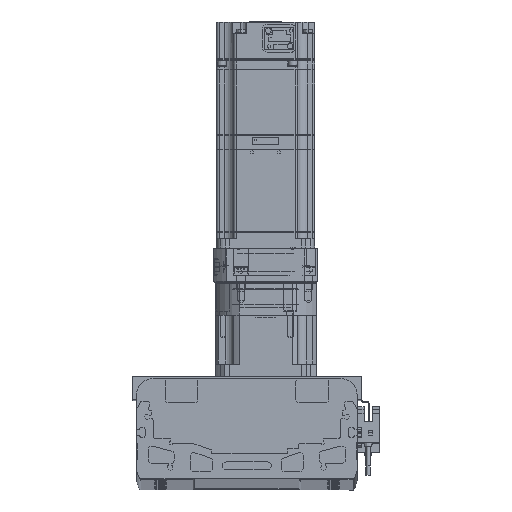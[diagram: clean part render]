
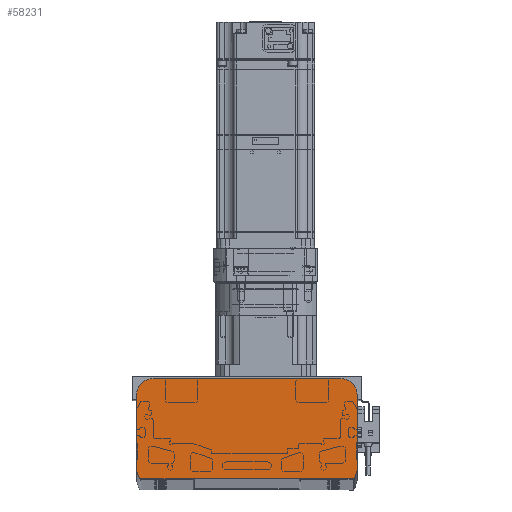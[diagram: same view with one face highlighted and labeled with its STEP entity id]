
A CAD part, top view. The second image highlights one B-rep face of the part: STEP entity #58231.
In plain terms, the highlighted planar face has unit normal (0, 0, 1).
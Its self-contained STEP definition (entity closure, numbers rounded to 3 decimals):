
#1344 = DIRECTION ( 'NONE',  ( 1., 0., 0. ) ) ;
#3871 = EDGE_CURVE ( 'NONE', #124569, #68463, #76215, .T. ) ;
#4814 = DIRECTION ( 'NONE',  ( 0.242, 0.97, 0. ) ) ;
#5580 = DIRECTION ( 'NONE',  ( -1., 0., 0. ) ) ;
#6233 = VECTOR ( 'NONE', #16383, 1000. ) ;
#8488 = VERTEX_POINT ( 'NONE', #110051 ) ;
#9675 = CARTESIAN_POINT ( 'NONE',  ( 403.368, 137.583, 3630. ) ) ;
#12363 = DIRECTION ( 'NONE',  ( 0., 0., 1. ) ) ;
#12436 = EDGE_CURVE ( 'NONE', #68463, #25174, #89337, .T. ) ;
#13784 = DIRECTION ( 'NONE',  ( 0.242, -0.97, 0. ) ) ;
#14630 = ORIENTED_EDGE ( 'NONE', *, *, #123398, .T. ) ;
#15449 = CARTESIAN_POINT ( 'NONE',  ( 405.33, 143.083, 3630. ) ) ;
#16383 = DIRECTION ( 'NONE',  ( 1., 0., 0. ) ) ;
#22429 = ORIENTED_EDGE ( 'NONE', *, *, #128902, .T. ) ;
#22671 = CARTESIAN_POINT ( 'NONE',  ( 404.83, 143.083, 3630. ) ) ;
#22714 = CARTESIAN_POINT ( 'NONE',  ( 270.83, 143.083, 3630. ) ) ;
#24157 = LINE ( 'NONE', #108682, #41766 ) ;
#25174 = VERTEX_POINT ( 'NONE', #84068 ) ;
#25583 = CARTESIAN_POINT ( 'NONE',  ( 405.33, 143.083, 3630. ) ) ;
#28749 = CARTESIAN_POINT ( 'NONE',  ( 280.33, 189.083, 3630. ) ) ;
#30300 = VERTEX_POINT ( 'NONE', #9675 ) ;
#32716 = VERTEX_POINT ( 'NONE', #73740 ) ;
#33344 = CARTESIAN_POINT ( 'NONE',  ( 271.152, 139.723, 3630. ) ) ;
#35193 = CIRCLE ( 'NONE', #103859, 10. ) ;
#35250 = CARTESIAN_POINT ( 'NONE',  ( 404.507, 139.723, 3630. ) ) ;
#35321 = DIRECTION ( 'NONE',  ( 0., -1., 0. ) ) ;
#35460 = FACE_OUTER_BOUND ( 'NONE', #134317, .T. ) ;
#36397 = ORIENTED_EDGE ( 'NONE', *, *, #113202, .T. ) ;
#37554 = VERTEX_POINT ( 'NONE', #55386 ) ;
#37876 = CIRCLE ( 'NONE', #73278, 0.5 ) ;
#38273 = VERTEX_POINT ( 'NONE', #33344 ) ;
#39143 = DIRECTION ( 'NONE',  ( 1., 0., 0. ) ) ;
#40475 = VERTEX_POINT ( 'NONE', #110709 ) ;
#41196 = CARTESIAN_POINT ( 'NONE',  ( 272.291, 137.583, 3630. ) ) ;
#41766 = VECTOR ( 'NONE', #13784, 1000. ) ;
#43107 = EDGE_CURVE ( 'NONE', #37554, #121131, #45636, .T. ) ;
#44003 = DIRECTION ( 'NONE',  ( 0., 0., 1. ) ) ;
#44452 = CARTESIAN_POINT ( 'NONE',  ( 276.004, 140.933, 3630. ) ) ;
#45636 = LINE ( 'NONE', #35250, #124859 ) ;
#46336 = LINE ( 'NONE', #25583, #106934 ) ;
#47059 = CARTESIAN_POINT ( 'NONE',  ( 395.33, 199.083, 3630. ) ) ;
#50500 = ORIENTED_EDGE ( 'NONE', *, *, #134501, .T. ) ;
#55318 = VERTEX_POINT ( 'NONE', #15449 ) ;
#55386 = CARTESIAN_POINT ( 'NONE',  ( 404.507, 139.723, 3630. ) ) ;
#56202 = PLANE ( 'NONE',  #127061 ) ;
#56896 = AXIS2_PLACEMENT_3D ( 'NONE', #22714, #12363, #1344 ) ;
#58231 = ADVANCED_FACE ( 'NONE', ( #35460 ), #56202, .T. ) ;
#63551 = DIRECTION ( 'NONE',  ( 0., 0., 1. ) ) ;
#64338 = ORIENTED_EDGE ( 'NONE', *, *, #107743, .T. ) ;
#64924 = DIRECTION ( 'NONE',  ( 0., 0., 1. ) ) ;
#65493 = CARTESIAN_POINT ( 'NONE',  ( 395.33, 189.083, 3630. ) ) ;
#65497 = AXIS2_PLACEMENT_3D ( 'NONE', #65599, #63551, #118964 ) ;
#65599 = CARTESIAN_POINT ( 'NONE',  ( 399.656, 140.933, 3630. ) ) ;
#66782 = CARTESIAN_POINT ( 'NONE',  ( 405.315, 142.962, 3630. ) ) ;
#67156 = LINE ( 'NONE', #90044, #90060 ) ;
#67493 = CARTESIAN_POINT ( 'NONE',  ( 276.004, 140.933, 3630. ) ) ;
#67518 = DIRECTION ( 'NONE',  ( 1., 0., 0. ) ) ;
#67606 = ORIENTED_EDGE ( 'NONE', *, *, #124332, .T. ) ;
#68463 = VERTEX_POINT ( 'NONE', #136471 ) ;
#69920 = VECTOR ( 'NONE', #5580, 1000. ) ;
#70417 = LINE ( 'NONE', #79420, #6233 ) ;
#71690 = ORIENTED_EDGE ( 'NONE', *, *, #12436, .T. ) ;
#72214 = CIRCLE ( 'NONE', #65497, 5. ) ;
#73278 = AXIS2_PLACEMENT_3D ( 'NONE', #22671, #64924, #107195 ) ;
#73740 = CARTESIAN_POINT ( 'NONE',  ( 405.33, 189.083, 3630. ) ) ;
#75155 = CIRCLE ( 'NONE', #115095, 5. ) ;
#76215 = LINE ( 'NONE', #47059, #69920 ) ;
#76651 = VERTEX_POINT ( 'NONE', #41196 ) ;
#79420 = CARTESIAN_POINT ( 'NONE',  ( 272.291, 137.583, 3630. ) ) ;
#79563 = EDGE_CURVE ( 'NONE', #8488, #38273, #24157, .T. ) ;
#84068 = CARTESIAN_POINT ( 'NONE',  ( 270.33, 189.083, 3630. ) ) ;
#85558 = DIRECTION ( 'NONE',  ( 1., 0., 0. ) ) ;
#86997 = ORIENTED_EDGE ( 'NONE', *, *, #107476, .T. ) ;
#87125 = AXIS2_PLACEMENT_3D ( 'NONE', #28749, #134118, #39143 ) ;
#89337 = CIRCLE ( 'NONE', #87125, 10. ) ;
#90044 = CARTESIAN_POINT ( 'NONE',  ( 270.33, 189.083, 3630. ) ) ;
#90060 = VECTOR ( 'NONE', #35321, 1000. ) ;
#90119 = ORIENTED_EDGE ( 'NONE', *, *, #43107, .T. ) ;
#92348 = CIRCLE ( 'NONE', #56896, 0.5 ) ;
#93855 = ORIENTED_EDGE ( 'NONE', *, *, #119563, .T. ) ;
#95985 = DIRECTION ( 'NONE',  ( 0., 0., 1. ) ) ;
#103859 = AXIS2_PLACEMENT_3D ( 'NONE', #65493, #44003, #67518 ) ;
#106934 = VECTOR ( 'NONE', #130917, 1000. ) ;
#107195 = DIRECTION ( 'NONE',  ( 1., 0., 0. ) ) ;
#107476 = EDGE_CURVE ( 'NONE', #25174, #40475, #67156, .T. ) ;
#107743 = EDGE_CURVE ( 'NONE', #40475, #8488, #92348, .T. ) ;
#108682 = CARTESIAN_POINT ( 'NONE',  ( 270.345, 142.962, 3630. ) ) ;
#108897 = DIRECTION ( 'NONE',  ( 1., 0., 0. ) ) ;
#110051 = CARTESIAN_POINT ( 'NONE',  ( 270.345, 142.962, 3630. ) ) ;
#110709 = CARTESIAN_POINT ( 'NONE',  ( 270.33, 143.083, 3630. ) ) ;
#113202 = EDGE_CURVE ( 'NONE', #55318, #32716, #46336, .T. ) ;
#115095 = AXIS2_PLACEMENT_3D ( 'NONE', #67493, #95985, #85558 ) ;
#115292 = CARTESIAN_POINT ( 'NONE',  ( 395.33, 199.083, 3630. ) ) ;
#118964 = DIRECTION ( 'NONE',  ( 1., 0., 0. ) ) ;
#119563 = EDGE_CURVE ( 'NONE', #30300, #37554, #72214, .T. ) ;
#121131 = VERTEX_POINT ( 'NONE', #66782 ) ;
#121387 = DIRECTION ( 'NONE',  ( 0., 0., 1. ) ) ;
#123398 = EDGE_CURVE ( 'NONE', #38273, #76651, #75155, .T. ) ;
#124332 = EDGE_CURVE ( 'NONE', #32716, #124569, #35193, .T. ) ;
#124569 = VERTEX_POINT ( 'NONE', #115292 ) ;
#124859 = VECTOR ( 'NONE', #4814, 1000. ) ;
#127061 = AXIS2_PLACEMENT_3D ( 'NONE', #44452, #121387, #108897 ) ;
#128902 = EDGE_CURVE ( 'NONE', #76651, #30300, #70417, .T. ) ;
#130917 = DIRECTION ( 'NONE',  ( 0., 1., 0. ) ) ;
#131093 = ORIENTED_EDGE ( 'NONE', *, *, #79563, .T. ) ;
#134118 = DIRECTION ( 'NONE',  ( 0., 0., 1. ) ) ;
#134317 = EDGE_LOOP ( 'NONE', ( #14630, #22429, #93855, #90119, #50500, #36397, #67606, #135118, #71690, #86997, #64338, #131093 ) ) ;
#134501 = EDGE_CURVE ( 'NONE', #121131, #55318, #37876, .T. ) ;
#135118 = ORIENTED_EDGE ( 'NONE', *, *, #3871, .T. ) ;
#136471 = CARTESIAN_POINT ( 'NONE',  ( 280.33, 199.083, 3630. ) ) ;
